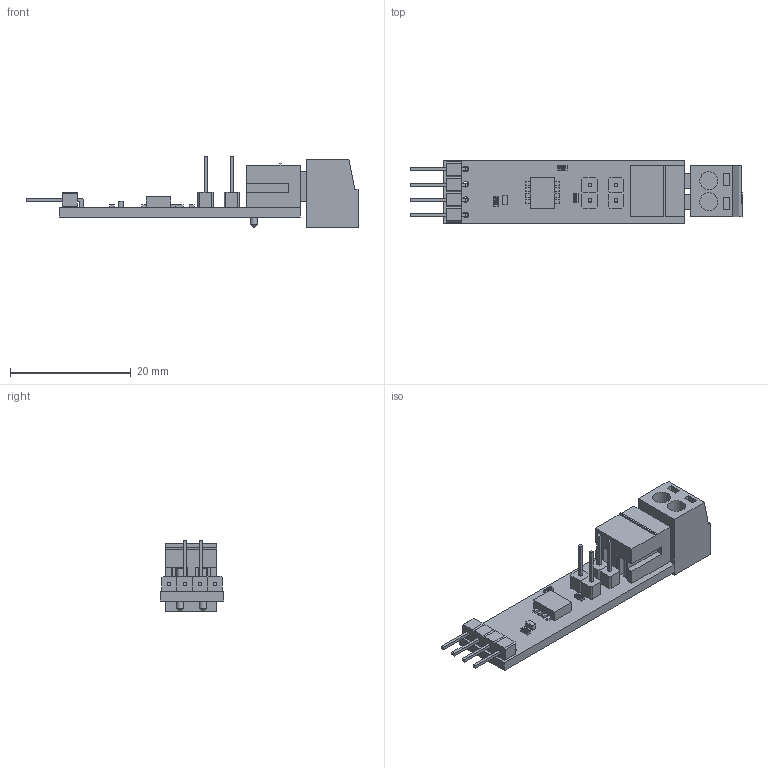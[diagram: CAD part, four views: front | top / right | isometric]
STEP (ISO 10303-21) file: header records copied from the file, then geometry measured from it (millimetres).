
FILE_DESCRIPTION(/* description */ (''),/* implementation_level */ '2;1');
FILE_NAME(/* name */ 'CAN HAT_1__step.prt.stp',/* time_stamp */ '2025-08-20T17:04:17+08:00',/* author */ (''),/* organization */ (''),/* preprocessor_version */ 'ST-DEVELOPER v16.7',/* originating_system */ 'SIEMENS PLM Software NX 12.0',/* authorisation */ '');
FILE_SCHEMA (('AUTOMOTIVE_DESIGN { 1 0 10303 214 3 1 1 1 }'));
Length unit declared in the file: millimetre
Products named in the file (14): Extruded; R0603; Open CASCADE STEP translator 6.8 5.1.1; lingjian; paiz1; paiz21; AXP1; 6500044128; U1; R2; R1; R3; Board; CAN HAT_1__step
Assembly tree (16 placements, depth 4):
  CAN HAT_1__step
    AXP1
    paiz21  x2
    paiz1
    lingjian
    Board
      Open CASCADE STEP translator 6.8 5.1.1
    R3
      R0603
    R1
      R0603
    R2
      R0603
    U1
      6500044128
        Extruded
Bounding box: 55.08 x 10.5 x 11.9 mm (x, y, z)
Volume: 2007.3 mm3; surface area: 2834.6 mm2
Topology: 38 solids, 38 shells, 575 faces, 1404 edges, 936 vertices
Faces by surface type: plane 404, bspline 147, cylinder 22, cone 2
Full cylindrical faces by diameter (mm): 0.9 x8, 1.2 x2, 1.3 x2, 3 x2
Entity records: 16014 total; most frequent: CARTESIAN_POINT 6701, ORIENTED_EDGE 1836, DIRECTION 1580, EDGE_CURVE 918, LINE 774, VECTOR 774, VERTEX_POINT 622, EDGE_LOOP 456
